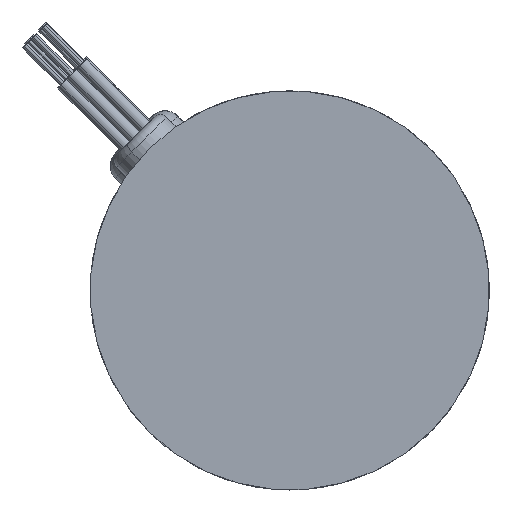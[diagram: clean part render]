
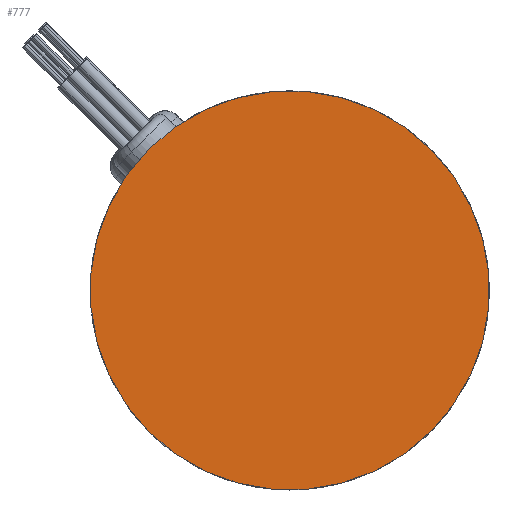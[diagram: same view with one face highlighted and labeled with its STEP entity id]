
A CAD part, left-side view. The second image highlights one B-rep face of the part: STEP entity #777.
In plain terms, the highlighted planar face has unit normal (-1, 0, 0).
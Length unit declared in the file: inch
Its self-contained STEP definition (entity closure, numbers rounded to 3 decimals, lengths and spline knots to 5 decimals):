
#369 = ORIENTED_EDGE ( 'NONE', *, *, #862, .F. ) ;
#582 = AXIS2_PLACEMENT_3D ( 'NONE', #654, #3170, #10555 ) ;
#616 = DIRECTION ( 'NONE',  ( 0., 0.707, -0.707 ) ) ;
#654 = CARTESIAN_POINT ( 'NONE',  ( 0., 0., 0. ) ) ;
#777 = ADVANCED_FACE ( 'NONE', ( #6188 ), #7023, .F. ) ;
#862 = EDGE_CURVE ( 'NONE', #4968, #6717, #8220, .T. ) ;
#1311 = CARTESIAN_POINT ( 'NONE',  ( 0., 0.7955, -0.7955 ) ) ;
#1344 = DIRECTION ( 'NONE',  ( 1., 0., 0. ) ) ;
#1513 = AXIS2_PLACEMENT_3D ( 'NONE', #4246, #9993, #6774 ) ;
#2160 = CARTESIAN_POINT ( 'NONE',  ( 0., 0., 0. ) ) ;
#2971 = AXIS2_PLACEMENT_3D ( 'NONE', #2160, #1344, #616 ) ;
#3003 = EDGE_LOOP ( 'NONE', ( #4686, #369 ) ) ;
#3170 = DIRECTION ( 'NONE',  ( 1., 0., 0. ) ) ;
#4246 = CARTESIAN_POINT ( 'NONE',  ( 0., 0., 0. ) ) ;
#4686 = ORIENTED_EDGE ( 'NONE', *, *, #7855, .F. ) ;
#4968 = VERTEX_POINT ( 'NONE', #1311 ) ;
#5631 = CARTESIAN_POINT ( 'NONE',  ( 0., -0.7955, 0.7955 ) ) ;
#6188 = FACE_OUTER_BOUND ( 'NONE', #3003, .T. ) ;
#6717 = VERTEX_POINT ( 'NONE', #5631 ) ;
#6774 = DIRECTION ( 'NONE',  ( 0., 0.707, -0.707 ) ) ;
#7023 = PLANE ( 'NONE',  #2971 ) ;
#7855 = EDGE_CURVE ( 'NONE', #6717, #4968, #8455, .T. ) ;
#8220 = CIRCLE ( 'NONE', #582, 1.125 ) ;
#8455 = CIRCLE ( 'NONE', #1513, 1.125 ) ;
#9993 = DIRECTION ( 'NONE',  ( 1., 0., 0. ) ) ;
#10555 = DIRECTION ( 'NONE',  ( 0., 0.707, -0.707 ) ) ;
